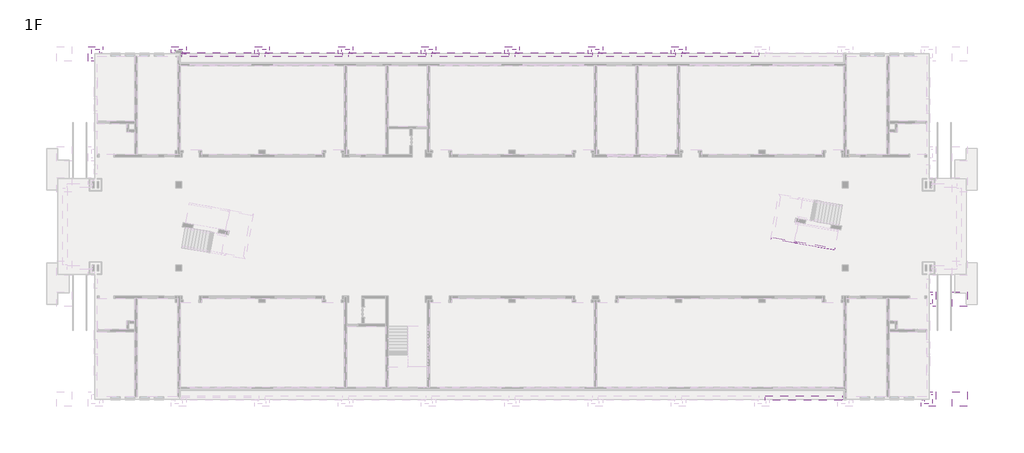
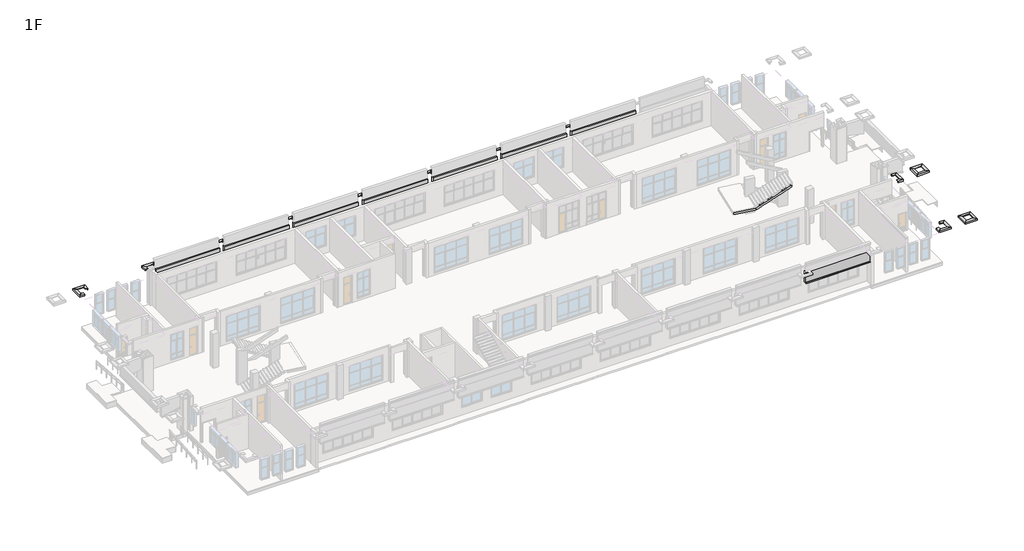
# One storey, part 15 of 16: 20 proxies, 2 members.
"""IFC4 building model written with IfcOpenShell, lengths in millimetres."""

from ifc_helpers import new_model, si_unit, origin, place, context, project, spatial, faceted_brep, transform, mapped, element, save
from components import generic_models_fbc45798, generic_models_00445dfb

model = new_model("IFC4")

# Units and contexts
model_context = context("Model", 3, world=origin())
ifc_project = project(units=[si_unit("LENGTHUNIT", "METRE", prefix="MILLI")], contexts=[model_context])

# Site, building, storey
site = spatial("IfcSite", under=ifc_project)
building = spatial("IfcBuilding", under=site)
storey = spatial("IfcBuildingStorey", under=building, Name="1F", Elevation=0.0)

# Proxies
placement = place(None, origin())
generic_models_shape = generic_models_fbc45798(model_context)
element("IfcBuildingElementProxy", 1, Name="走廊板 : h=300mm", ObjectType="走廊板 : h=300mm", at=placement, inside=storey, context=model_context, shape_type="MappedRepresentation", body=[
    mapped(generic_models_shape, transform((67300.0, 150.0, 4200.0), x_axis=(1.0, 0.0, 0.0), y_axis=(0.0, 1.0, 0.0), z_axis=(0.0, 0.0, 1.0))),
])
generic_models_2_shape = generic_models_00445dfb(model_context)
element("IfcBuildingElementProxy", 2, Name="走廊板 : h=300mm", ObjectType="走廊板 : h=300mm", at=placement, inside=storey, context=model_context, shape_type="MappedRepresentation", body=[
    mapped(generic_models_2_shape, transform((11300.0, 33050.0, 4200.0), x_axis=(1.0, 0.0, 0.0), y_axis=(0.0, 1.0, 0.0), z_axis=(0.0, 0.0, 1.0))),
])
element("IfcBuildingElementProxy", 3, Name="走廊板 : h=300mm", ObjectType="走廊板 : h=300mm", at=placement, inside=storey, context=model_context, shape_type="MappedRepresentation", body=[
    mapped(generic_models_2_shape, transform((19300.0, 33050.0, 4200.0), x_axis=(1.0, 0.0, 0.0), y_axis=(0.0, 1.0, 0.0), z_axis=(0.0, 0.0, 1.0))),
])
element("IfcBuildingElementProxy", 4, Name="走廊板 : h=300mm", ObjectType="走廊板 : h=300mm", at=placement, inside=storey, context=model_context, shape_type="MappedRepresentation", body=[
    mapped(generic_models_2_shape, transform((27300.0, 33050.0, 4200.0), x_axis=(1.0, 0.0, 0.0), y_axis=(0.0, 1.0, 0.0), z_axis=(0.0, 0.0, 1.0))),
])
element("IfcBuildingElementProxy", 5, Name="走廊板 : h=300mm", ObjectType="走廊板 : h=300mm", at=placement, inside=storey, context=model_context, shape_type="MappedRepresentation", body=[
    mapped(generic_models_2_shape, transform((35300.0, 33050.0, 4200.0), x_axis=(1.0, 0.0, 0.0), y_axis=(0.0, 1.0, 0.0), z_axis=(0.0, 0.0, 1.0))),
])
element("IfcBuildingElementProxy", 6, Name="走廊板 : h=300mm", ObjectType="走廊板 : h=300mm", at=placement, inside=storey, context=model_context, shape_type="MappedRepresentation", body=[
    mapped(generic_models_2_shape, transform((43300.0, 33050.0, 4200.0), x_axis=(1.0, 0.0, 0.0), y_axis=(0.0, 1.0, 0.0), z_axis=(0.0, 0.0, 1.0))),
])
element("IfcBuildingElementProxy", 7, Name="走廊板 : h=300mm", ObjectType="走廊板 : h=300mm", at=placement, inside=storey, context=model_context, shape_type="MappedRepresentation", body=[
    mapped(generic_models_2_shape, transform((51300.0, 33050.0, 4200.0), x_axis=(1.0, 0.0, 0.0), y_axis=(0.0, 1.0, 0.0), z_axis=(0.0, 0.0, 1.0))),
])
element("IfcBuildingElementProxy", 8, Name="走廊板 : h=300mm", ObjectType="走廊板 : h=300mm", at=placement, inside=storey, context=model_context, shape_type="MappedRepresentation", body=[
    mapped(generic_models_2_shape, transform((59300.0, 33050.0, 4200.0), x_axis=(1.0, 0.0, 0.0), y_axis=(0.0, 1.0, 0.0), z_axis=(0.0, 0.0, 1.0))),
])
element("IfcBuildingElementProxy", 9, Name="QS1", ObjectType="QS1", at=placement, inside=storey, context=model_context, shape_type="Brep", body=[
    faceted_brep([(3700.0000001, 33899.6954638, 4200.0), (3600.0000001, 33799.6954638, 4200.0), (3600.0000001, 33799.6954638, 4250.0), (3650.0000001, 33849.6954638, 4250.0), (3650.0000001, 33849.6954638, 4350.0), (3400.0000001, 33599.6954638, 4350.0), (3400.0000001, 33599.6954638, 4400.0), (3700.0000001, 33899.6954638, 4400.0), (3700.0000001, 33252.6954639, 4200.0), (3700.0000001, 33252.6954639, 4400.0), (3400.0000001, 33252.6954639, 4400.0), (3400.0000001, 33252.6954639, 4350.0), (3650.0000001, 33252.6954639, 4350.0), (3650.0000001, 33252.6954639, 4250.0), (3600.0000001, 33252.6954639, 4250.0), (3600.0000001, 33252.6954639, 4200.0)], [[[0, 1, 2, 3, 4, 5, 6, 7]], [[8, 9, 10, 11, 12, 13, 14, 15]], [[1, 0, 8, 15]], [[2, 1, 15, 14]], [[3, 2, 14, 13]], [[4, 3, 13, 12]], [[5, 4, 12, 11]], [[6, 5, 11, 10]], [[7, 6, 10, 9]], [[0, 7, 9, 8]]]),
    faceted_brep([(2300.0000001, 33899.6954638, 4200.0), (2400.0000001, 33799.6954638, 4200.0), (2400.0000001, 33799.6954638, 4250.0), (2350.0000001, 33849.6954638, 4250.0), (2350.0000001, 33849.6954638, 4350.0), (2600.0000001, 33599.6954638, 4350.0), (2600.0000001, 33599.6954638, 4400.0), (2300.0000001, 33899.6954638, 4400.0), (3700.0000001, 33899.6954638, 4200.0), (3700.0000001, 33899.6954638, 4400.0), (3400.0000001, 33599.6954638, 4400.0), (3400.0000001, 33599.6954638, 4350.0), (3650.0000001, 33849.6954638, 4350.0), (3650.0000001, 33849.6954638, 4250.0), (3600.0000001, 33799.6954638, 4250.0), (3600.0000001, 33799.6954638, 4200.0)], [[[0, 1, 2, 3, 4, 5, 6, 7]], [[8, 9, 10, 11, 12, 13, 14, 15]], [[1, 0, 8, 15]], [[2, 1, 15, 14]], [[3, 2, 14, 13]], [[4, 3, 13, 12]], [[5, 4, 12, 11]], [[6, 5, 11, 10]], [[7, 6, 10, 9]], [[0, 7, 9, 8]]]),
    faceted_brep([(2300.0000001, 32499.6954638, 4200.0), (2400.0000001, 32599.6954638, 4200.0), (2400.0000001, 32599.6954638, 4250.0), (2350.0000001, 32549.6954638, 4250.0), (2350.0000001, 32549.6954638, 4350.0), (2600.0000001, 32799.6954638, 4350.0), (2600.0000001, 32799.6954638, 4400.0), (2300.0000001, 32499.6954638, 4400.0), (2300.0000001, 33899.6954638, 4200.0), (2300.0000001, 33899.6954638, 4400.0), (2600.0000001, 33599.6954638, 4400.0), (2600.0000001, 33599.6954638, 4350.0), (2350.0000001, 33849.6954638, 4350.0), (2350.0000001, 33849.6954638, 4250.0), (2400.0000001, 33799.6954638, 4250.0), (2400.0000001, 33799.6954638, 4200.0)], [[[0, 1, 2, 3, 4, 5, 6, 7]], [[8, 9, 10, 11, 12, 13, 14, 15]], [[1, 0, 8, 15]], [[2, 1, 15, 14]], [[3, 2, 14, 13]], [[4, 3, 13, 12]], [[5, 4, 12, 11]], [[6, 5, 11, 10]], [[7, 6, 10, 9]], [[0, 7, 9, 8]]]),
    faceted_brep([(2897.0000002, 32499.6954638, 4200.0), (2897.0000002, 32599.6954638, 4200.0), (2897.0000002, 32599.6954638, 4250.0), (2897.0000002, 32549.6954638, 4250.0), (2897.0000002, 32549.6954638, 4350.0), (2897.0000002, 32799.6954638, 4350.0), (2897.0000002, 32799.6954638, 4400.0), (2897.0000002, 32499.6954638, 4400.0), (2300.0000001, 32499.6954638, 4200.0), (2300.0000001, 32499.6954638, 4400.0), (2600.0000001, 32799.6954638, 4400.0), (2600.0000001, 32799.6954638, 4350.0), (2350.0000001, 32549.6954638, 4350.0), (2350.0000001, 32549.6954638, 4250.0), (2400.0000001, 32599.6954638, 4250.0), (2400.0000001, 32599.6954638, 4200.0)], [[[0, 1, 2, 3, 4, 5, 6, 7]], [[8, 9, 10, 11, 12, 13, 14, 15]], [[1, 0, 8, 15]], [[2, 1, 15, 14]], [[3, 2, 14, 13]], [[4, 3, 13, 12]], [[5, 4, 12, 11]], [[6, 5, 11, 10]], [[7, 6, 10, 9]], [[0, 7, 9, 8]]]),
])
element("IfcBuildingElementProxy", 10, Name="QS1", ObjectType="QS1", at=placement, inside=storey, context=model_context, shape_type="Brep", body=[
    faceted_brep([(11699.9999999, 33899.6402082, 4200.0), (11599.9999999, 33799.6402082, 4200.0), (11599.9999999, 33799.6402082, 4250.0), (11649.9999999, 33849.6402082, 4250.0), (11649.9999999, 33849.6402082, 4350.0), (11399.9999999, 33599.6402082, 4350.0), (11399.9999999, 33599.6402082, 4400.0), (11699.9999999, 33899.6402082, 4400.0), (11699.9999999, 33159.6402082, 4200.0), (11699.9999999, 33159.6402082, 4400.0), (11399.9999999, 33159.6402082, 4400.0), (11399.9999999, 33159.6402082, 4350.0), (11649.9999999, 33159.6402082, 4350.0), (11649.9999999, 33159.6402082, 4250.0), (11599.9999999, 33159.6402082, 4250.0), (11599.9999999, 33159.6402082, 4200.0)], [[[0, 1, 2, 3, 4, 5, 6, 7]], [[8, 9, 10, 11, 12, 13, 14, 15]], [[1, 0, 8, 15]], [[2, 1, 15, 14]], [[3, 2, 14, 13]], [[4, 3, 13, 12]], [[5, 4, 12, 11]], [[6, 5, 11, 10]], [[7, 6, 10, 9]], [[0, 7, 9, 8]]]),
    faceted_brep([(10300.0000009, 33899.6402082, 4200.0), (10400.0000009, 33799.6402082, 4200.0), (10400.0000009, 33799.6402082, 4250.0), (10350.0000009, 33849.6402082, 4250.0), (10350.0000009, 33849.6402082, 4350.0), (10600.0000009, 33599.6402082, 4350.0), (10600.0000009, 33599.6402082, 4400.0), (10300.0000009, 33899.6402082, 4400.0), (11699.9999999, 33899.6402082, 4200.0), (11699.9999999, 33899.6402082, 4400.0), (11399.9999999, 33599.6402082, 4400.0), (11399.9999999, 33599.6402082, 4350.0), (11649.9999999, 33849.6402082, 4350.0), (11649.9999999, 33849.6402082, 4250.0), (11599.9999999, 33799.6402082, 4250.0), (11599.9999999, 33799.6402082, 4200.0)], [[[0, 1, 2, 3, 4, 5, 6, 7]], [[8, 9, 10, 11, 12, 13, 14, 15]], [[1, 0, 8, 15]], [[2, 1, 15, 14]], [[3, 2, 14, 13]], [[4, 3, 13, 12]], [[5, 4, 12, 11]], [[6, 5, 11, 10]], [[7, 6, 10, 9]], [[0, 7, 9, 8]]]),
    faceted_brep([(10300.0000009, 33252.6954639, 4200.0), (10400.0000009, 33252.6954639, 4200.0), (10400.0000009, 33252.6954639, 4250.0), (10350.0000009, 33252.6954639, 4250.0), (10350.0000009, 33252.6954639, 4350.0), (10600.0000009, 33252.6954639, 4350.0), (10600.0000009, 33252.6954639, 4400.0), (10300.0000009, 33252.6954639, 4400.0), (10300.0000009, 33899.6402082, 4200.0), (10300.0000009, 33899.6402082, 4400.0), (10600.0000009, 33599.6402082, 4400.0), (10600.0000009, 33599.6402082, 4350.0), (10350.0000009, 33849.6402082, 4350.0), (10350.0000009, 33849.6402082, 4250.0), (10400.0000009, 33799.6402082, 4250.0), (10400.0000009, 33799.6402082, 4200.0)], [[[0, 1, 2, 3, 4, 5, 6, 7]], [[8, 9, 10, 11, 12, 13, 14, 15]], [[1, 0, 8, 15]], [[2, 1, 15, 14]], [[3, 2, 14, 13]], [[4, 3, 13, 12]], [[5, 4, 12, 11]], [[6, 5, 11, 10]], [[7, 6, 10, 9]], [[0, 7, 9, 8]]]),
])
element("IfcBuildingElementProxy", 11, Name="QS1", ObjectType="QS1", at=placement, inside=storey, context=model_context, shape_type="Brep", body=[
    faceted_brep([(18300.0000009, 33200.0, 4200.0), (18400.0000009, 33200.0, 4200.0), (18400.0000009, 33200.0, 4250.0), (18350.0000009, 33200.0, 4250.0), (18350.0000009, 33200.0, 4350.0), (18600.0000009, 33200.0, 4350.0), (18600.0000009, 33200.0, 4400.0), (18300.0000009, 33200.0, 4400.0), (18300.0000009, 33899.6402082, 4200.0), (18300.0000009, 33899.6402082, 4400.0), (18600.0000009, 33599.6402082, 4400.0), (18600.0000009, 33599.6402082, 4350.0), (18350.0000009, 33849.6402082, 4350.0), (18350.0000009, 33849.6402082, 4250.0), (18400.0000009, 33799.6402082, 4250.0), (18400.0000009, 33799.6402082, 4200.0)], [[[0, 1, 2, 3, 4, 5, 6, 7]], [[8, 9, 10, 11, 12, 13, 14, 15]], [[1, 0, 8, 15]], [[2, 1, 15, 14]], [[3, 2, 14, 13]], [[4, 3, 13, 12]], [[5, 4, 12, 11]], [[6, 5, 11, 10]], [[7, 6, 10, 9]], [[0, 7, 9, 8]]]),
    faceted_brep([(18300.0000009, 33899.6402082, 4200.0), (18400.0000009, 33799.6402082, 4200.0), (18400.0000009, 33799.6402082, 4250.0), (18350.0000009, 33849.6402082, 4250.0), (18350.0000009, 33849.6402082, 4350.0), (18600.0000009, 33599.6402082, 4350.0), (18600.0000009, 33599.6402082, 4400.0), (18300.0000009, 33899.6402082, 4400.0), (19699.9999999, 33899.6402082, 4200.0), (19699.9999999, 33899.6402082, 4400.0), (19399.9999999, 33599.6402082, 4400.0), (19399.9999999, 33599.6402082, 4350.0), (19649.9999999, 33849.6402082, 4350.0), (19649.9999999, 33849.6402082, 4250.0), (19599.9999999, 33799.6402082, 4250.0), (19599.9999999, 33799.6402082, 4200.0)], [[[0, 1, 2, 3, 4, 5, 6, 7]], [[8, 9, 10, 11, 12, 13, 14, 15]], [[1, 0, 8, 15]], [[2, 1, 15, 14]], [[3, 2, 14, 13]], [[4, 3, 13, 12]], [[5, 4, 12, 11]], [[6, 5, 11, 10]], [[7, 6, 10, 9]], [[0, 7, 9, 8]]]),
    faceted_brep([(19699.9999999, 33899.6402082, 4200.0), (19599.9999999, 33799.6402082, 4200.0), (19599.9999999, 33799.6402082, 4250.0), (19649.9999999, 33849.6402082, 4250.0), (19649.9999999, 33849.6402082, 4350.0), (19399.9999999, 33599.6402082, 4350.0), (19399.9999999, 33599.6402082, 4400.0), (19699.9999999, 33899.6402082, 4400.0), (19699.9999999, 33199.844957, 4200.0), (19699.9999999, 33199.844957, 4400.0), (19399.9999999, 33199.844957, 4400.0), (19399.9999999, 33199.844957, 4350.0), (19649.9999999, 33199.844957, 4350.0), (19649.9999999, 33199.844957, 4250.0), (19599.9999999, 33199.844957, 4250.0), (19599.9999999, 33199.844957, 4200.0)], [[[0, 1, 2, 3, 4, 5, 6, 7]], [[8, 9, 10, 11, 12, 13, 14, 15]], [[1, 0, 8, 15]], [[2, 1, 15, 14]], [[3, 2, 14, 13]], [[4, 3, 13, 12]], [[5, 4, 12, 11]], [[6, 5, 11, 10]], [[7, 6, 10, 9]], [[0, 7, 9, 8]]]),
])
element("IfcBuildingElementProxy", 12, Name="QS1", ObjectType="QS1", at=placement, inside=storey, context=model_context, shape_type="Brep", body=[
    faceted_brep([(26300.0000009, 33200.0, 4200.0), (26400.0000009, 33200.0, 4200.0), (26400.0000009, 33200.0, 4250.0), (26350.0000009, 33200.0, 4250.0), (26350.0000009, 33200.0, 4350.0), (26600.0000009, 33200.0, 4350.0), (26600.0000009, 33200.0, 4400.0), (26300.0000009, 33200.0, 4400.0), (26300.0000009, 33899.6402082, 4200.0), (26300.0000009, 33899.6402082, 4400.0), (26600.0000009, 33599.6402082, 4400.0), (26600.0000009, 33599.6402082, 4350.0), (26350.0000009, 33849.6402082, 4350.0), (26350.0000009, 33849.6402082, 4250.0), (26400.0000009, 33799.6402082, 4250.0), (26400.0000009, 33799.6402082, 4200.0)], [[[0, 1, 2, 3, 4, 5, 6, 7]], [[8, 9, 10, 11, 12, 13, 14, 15]], [[1, 0, 8, 15]], [[2, 1, 15, 14]], [[3, 2, 14, 13]], [[4, 3, 13, 12]], [[5, 4, 12, 11]], [[6, 5, 11, 10]], [[7, 6, 10, 9]], [[0, 7, 9, 8]]]),
    faceted_brep([(26300.0000009, 33899.6402082, 4200.0), (26400.0000009, 33799.6402082, 4200.0), (26400.0000009, 33799.6402082, 4250.0), (26350.0000009, 33849.6402082, 4250.0), (26350.0000009, 33849.6402082, 4350.0), (26600.0000009, 33599.6402082, 4350.0), (26600.0000009, 33599.6402082, 4400.0), (26300.0000009, 33899.6402082, 4400.0), (27699.9999999, 33899.6402082, 4200.0), (27699.9999999, 33899.6402082, 4400.0), (27399.9999999, 33599.6402082, 4400.0), (27399.9999999, 33599.6402082, 4350.0), (27649.9999999, 33849.6402082, 4350.0), (27649.9999999, 33849.6402082, 4250.0), (27599.9999999, 33799.6402082, 4250.0), (27599.9999999, 33799.6402082, 4200.0)], [[[0, 1, 2, 3, 4, 5, 6, 7]], [[8, 9, 10, 11, 12, 13, 14, 15]], [[1, 0, 8, 15]], [[2, 1, 15, 14]], [[3, 2, 14, 13]], [[4, 3, 13, 12]], [[5, 4, 12, 11]], [[6, 5, 11, 10]], [[7, 6, 10, 9]], [[0, 7, 9, 8]]]),
    faceted_brep([(27699.9999999, 33899.6402082, 4200.0), (27599.9999999, 33799.6402082, 4200.0), (27599.9999999, 33799.6402082, 4250.0), (27649.9999999, 33849.6402082, 4250.0), (27649.9999999, 33849.6402082, 4350.0), (27399.9999999, 33599.6402082, 4350.0), (27399.9999999, 33599.6402082, 4400.0), (27699.9999999, 33899.6402082, 4400.0), (27699.9999999, 33199.844957, 4200.0), (27699.9999999, 33199.844957, 4400.0), (27399.9999999, 33199.844957, 4400.0), (27399.9999999, 33199.844957, 4350.0), (27649.9999999, 33199.844957, 4350.0), (27649.9999999, 33199.844957, 4250.0), (27599.9999999, 33199.844957, 4250.0), (27599.9999999, 33199.844957, 4200.0)], [[[0, 1, 2, 3, 4, 5, 6, 7]], [[8, 9, 10, 11, 12, 13, 14, 15]], [[1, 0, 8, 15]], [[2, 1, 15, 14]], [[3, 2, 14, 13]], [[4, 3, 13, 12]], [[5, 4, 12, 11]], [[6, 5, 11, 10]], [[7, 6, 10, 9]], [[0, 7, 9, 8]]]),
])
element("IfcBuildingElementProxy", 13, Name="QS1", ObjectType="QS1", at=placement, inside=storey, context=model_context, shape_type="Brep", body=[
    faceted_brep([(34300.0000009, 33200.0, 4200.0), (34400.0000009, 33200.0, 4200.0), (34400.0000009, 33200.0, 4250.0), (34350.0000009, 33200.0, 4250.0), (34350.0000009, 33200.0, 4350.0), (34600.0000009, 33200.0, 4350.0), (34600.0000009, 33200.0, 4400.0), (34300.0000009, 33200.0, 4400.0), (34300.0000009, 33899.6402082, 4200.0), (34300.0000009, 33899.6402082, 4400.0), (34600.0000009, 33599.6402082, 4400.0), (34600.0000009, 33599.6402082, 4350.0), (34350.0000009, 33849.6402082, 4350.0), (34350.0000009, 33849.6402082, 4250.0), (34400.0000009, 33799.6402082, 4250.0), (34400.0000009, 33799.6402082, 4200.0)], [[[0, 1, 2, 3, 4, 5, 6, 7]], [[8, 9, 10, 11, 12, 13, 14, 15]], [[1, 0, 8, 15]], [[2, 1, 15, 14]], [[3, 2, 14, 13]], [[4, 3, 13, 12]], [[5, 4, 12, 11]], [[6, 5, 11, 10]], [[7, 6, 10, 9]], [[0, 7, 9, 8]]]),
    faceted_brep([(34300.0000009, 33899.6402082, 4200.0), (34400.0000009, 33799.6402082, 4200.0), (34400.0000009, 33799.6402082, 4250.0), (34350.0000009, 33849.6402082, 4250.0), (34350.0000009, 33849.6402082, 4350.0), (34600.0000009, 33599.6402082, 4350.0), (34600.0000009, 33599.6402082, 4400.0), (34300.0000009, 33899.6402082, 4400.0), (35699.9999999, 33899.6402082, 4200.0), (35699.9999999, 33899.6402082, 4400.0), (35399.9999999, 33599.6402082, 4400.0), (35399.9999999, 33599.6402082, 4350.0), (35649.9999999, 33849.6402082, 4350.0), (35649.9999999, 33849.6402082, 4250.0), (35599.9999999, 33799.6402082, 4250.0), (35599.9999999, 33799.6402082, 4200.0)], [[[0, 1, 2, 3, 4, 5, 6, 7]], [[8, 9, 10, 11, 12, 13, 14, 15]], [[1, 0, 8, 15]], [[2, 1, 15, 14]], [[3, 2, 14, 13]], [[4, 3, 13, 12]], [[5, 4, 12, 11]], [[6, 5, 11, 10]], [[7, 6, 10, 9]], [[0, 7, 9, 8]]]),
    faceted_brep([(35699.9999999, 33899.6402082, 4200.0), (35599.9999999, 33799.6402082, 4200.0), (35599.9999999, 33799.6402082, 4250.0), (35649.9999999, 33849.6402082, 4250.0), (35649.9999999, 33849.6402082, 4350.0), (35399.9999999, 33599.6402082, 4350.0), (35399.9999999, 33599.6402082, 4400.0), (35699.9999999, 33899.6402082, 4400.0), (35699.9999999, 33199.844957, 4200.0), (35699.9999999, 33199.844957, 4400.0), (35399.9999999, 33199.844957, 4400.0), (35399.9999999, 33199.844957, 4350.0), (35649.9999999, 33199.844957, 4350.0), (35649.9999999, 33199.844957, 4250.0), (35599.9999999, 33199.844957, 4250.0), (35599.9999999, 33199.844957, 4200.0)], [[[0, 1, 2, 3, 4, 5, 6, 7]], [[8, 9, 10, 11, 12, 13, 14, 15]], [[1, 0, 8, 15]], [[2, 1, 15, 14]], [[3, 2, 14, 13]], [[4, 3, 13, 12]], [[5, 4, 12, 11]], [[6, 5, 11, 10]], [[7, 6, 10, 9]], [[0, 7, 9, 8]]]),
])
element("IfcBuildingElementProxy", 14, Name="QS1", ObjectType="QS1", at=placement, inside=storey, context=model_context, shape_type="Brep", body=[
    faceted_brep([(42300.0000009, 33200.0, 4200.0), (42400.0000009, 33200.0, 4200.0), (42400.0000009, 33200.0, 4250.0), (42350.0000009, 33200.0, 4250.0), (42350.0000009, 33200.0, 4350.0), (42600.0000009, 33200.0, 4350.0), (42600.0000009, 33200.0, 4400.0), (42300.0000009, 33200.0, 4400.0), (42300.0000009, 33899.6402082, 4200.0), (42300.0000009, 33899.6402082, 4400.0), (42600.0000009, 33599.6402082, 4400.0), (42600.0000009, 33599.6402082, 4350.0), (42350.0000009, 33849.6402082, 4350.0), (42350.0000009, 33849.6402082, 4250.0), (42400.0000009, 33799.6402082, 4250.0), (42400.0000009, 33799.6402082, 4200.0)], [[[0, 1, 2, 3, 4, 5, 6, 7]], [[8, 9, 10, 11, 12, 13, 14, 15]], [[1, 0, 8, 15]], [[2, 1, 15, 14]], [[3, 2, 14, 13]], [[4, 3, 13, 12]], [[5, 4, 12, 11]], [[6, 5, 11, 10]], [[7, 6, 10, 9]], [[0, 7, 9, 8]]]),
    faceted_brep([(42300.0000009, 33899.6402082, 4200.0), (42400.0000009, 33799.6402082, 4200.0), (42400.0000009, 33799.6402082, 4250.0), (42350.0000009, 33849.6402082, 4250.0), (42350.0000009, 33849.6402082, 4350.0), (42600.0000009, 33599.6402082, 4350.0), (42600.0000009, 33599.6402082, 4400.0), (42300.0000009, 33899.6402082, 4400.0), (43699.9999999, 33899.6402082, 4200.0), (43699.9999999, 33899.6402082, 4400.0), (43399.9999999, 33599.6402082, 4400.0), (43399.9999999, 33599.6402082, 4350.0), (43649.9999999, 33849.6402082, 4350.0), (43649.9999999, 33849.6402082, 4250.0), (43599.9999999, 33799.6402082, 4250.0), (43599.9999999, 33799.6402082, 4200.0)], [[[0, 1, 2, 3, 4, 5, 6, 7]], [[8, 9, 10, 11, 12, 13, 14, 15]], [[1, 0, 8, 15]], [[2, 1, 15, 14]], [[3, 2, 14, 13]], [[4, 3, 13, 12]], [[5, 4, 12, 11]], [[6, 5, 11, 10]], [[7, 6, 10, 9]], [[0, 7, 9, 8]]]),
    faceted_brep([(43699.9999999, 33899.6402082, 4200.0), (43599.9999999, 33799.6402082, 4200.0), (43599.9999999, 33799.6402082, 4250.0), (43649.9999999, 33849.6402082, 4250.0), (43649.9999999, 33849.6402082, 4350.0), (43399.9999999, 33599.6402082, 4350.0), (43399.9999999, 33599.6402082, 4400.0), (43699.9999999, 33899.6402082, 4400.0), (43699.9999999, 33199.844957, 4200.0), (43699.9999999, 33199.844957, 4400.0), (43399.9999999, 33199.844957, 4400.0), (43399.9999999, 33199.844957, 4350.0), (43649.9999999, 33199.844957, 4350.0), (43649.9999999, 33199.844957, 4250.0), (43599.9999999, 33199.844957, 4250.0), (43599.9999999, 33199.844957, 4200.0)], [[[0, 1, 2, 3, 4, 5, 6, 7]], [[8, 9, 10, 11, 12, 13, 14, 15]], [[1, 0, 8, 15]], [[2, 1, 15, 14]], [[3, 2, 14, 13]], [[4, 3, 13, 12]], [[5, 4, 12, 11]], [[6, 5, 11, 10]], [[7, 6, 10, 9]], [[0, 7, 9, 8]]]),
])
element("IfcBuildingElementProxy", 15, Name="QS1", ObjectType="QS1", at=placement, inside=storey, context=model_context, shape_type="Brep", body=[
    faceted_brep([(50300.0000009, 33200.0, 4200.0), (50400.0000009, 33200.0, 4200.0), (50400.0000009, 33200.0, 4250.0), (50350.0000009, 33200.0, 4250.0), (50350.0000009, 33200.0, 4350.0), (50600.0000009, 33200.0, 4350.0), (50600.0000009, 33200.0, 4400.0), (50300.0000009, 33200.0, 4400.0), (50300.0000009, 33899.6402082, 4200.0), (50300.0000009, 33899.6402082, 4400.0), (50600.0000009, 33599.6402082, 4400.0), (50600.0000009, 33599.6402082, 4350.0), (50350.0000009, 33849.6402082, 4350.0), (50350.0000009, 33849.6402082, 4250.0), (50400.0000009, 33799.6402082, 4250.0), (50400.0000009, 33799.6402082, 4200.0)], [[[0, 1, 2, 3, 4, 5, 6, 7]], [[8, 9, 10, 11, 12, 13, 14, 15]], [[1, 0, 8, 15]], [[2, 1, 15, 14]], [[3, 2, 14, 13]], [[4, 3, 13, 12]], [[5, 4, 12, 11]], [[6, 5, 11, 10]], [[7, 6, 10, 9]], [[0, 7, 9, 8]]]),
    faceted_brep([(50300.0000009, 33899.6402082, 4200.0), (50400.0000009, 33799.6402082, 4200.0), (50400.0000009, 33799.6402082, 4250.0), (50350.0000009, 33849.6402082, 4250.0), (50350.0000009, 33849.6402082, 4350.0), (50600.0000009, 33599.6402082, 4350.0), (50600.0000009, 33599.6402082, 4400.0), (50300.0000009, 33899.6402082, 4400.0), (51699.9999999, 33899.6402082, 4200.0), (51699.9999999, 33899.6402082, 4400.0), (51399.9999999, 33599.6402082, 4400.0), (51399.9999999, 33599.6402082, 4350.0), (51649.9999999, 33849.6402082, 4350.0), (51649.9999999, 33849.6402082, 4250.0), (51599.9999999, 33799.6402082, 4250.0), (51599.9999999, 33799.6402082, 4200.0)], [[[0, 1, 2, 3, 4, 5, 6, 7]], [[8, 9, 10, 11, 12, 13, 14, 15]], [[1, 0, 8, 15]], [[2, 1, 15, 14]], [[3, 2, 14, 13]], [[4, 3, 13, 12]], [[5, 4, 12, 11]], [[6, 5, 11, 10]], [[7, 6, 10, 9]], [[0, 7, 9, 8]]]),
    faceted_brep([(51699.9999999, 33899.6402082, 4200.0), (51599.9999999, 33799.6402082, 4200.0), (51599.9999999, 33799.6402082, 4250.0), (51649.9999999, 33849.6402082, 4250.0), (51649.9999999, 33849.6402082, 4350.0), (51399.9999999, 33599.6402082, 4350.0), (51399.9999999, 33599.6402082, 4400.0), (51699.9999999, 33899.6402082, 4400.0), (51699.9999999, 33199.844957, 4200.0), (51699.9999999, 33199.844957, 4400.0), (51399.9999999, 33199.844957, 4400.0), (51399.9999999, 33199.844957, 4350.0), (51649.9999999, 33199.844957, 4350.0), (51649.9999999, 33199.844957, 4250.0), (51599.9999999, 33199.844957, 4250.0), (51599.9999999, 33199.844957, 4200.0)], [[[0, 1, 2, 3, 4, 5, 6, 7]], [[8, 9, 10, 11, 12, 13, 14, 15]], [[1, 0, 8, 15]], [[2, 1, 15, 14]], [[3, 2, 14, 13]], [[4, 3, 13, 12]], [[5, 4, 12, 11]], [[6, 5, 11, 10]], [[7, 6, 10, 9]], [[0, 7, 9, 8]]]),
])
element("IfcBuildingElementProxy", 16, Name="QS1", ObjectType="QS1", at=placement, inside=storey, context=model_context, shape_type="Brep", body=[
    faceted_brep([(58300.0000009, 33200.0, 4200.0), (58400.0000009, 33200.0, 4200.0), (58400.0000009, 33200.0, 4250.0), (58350.0000009, 33200.0, 4250.0), (58350.0000009, 33200.0, 4350.0), (58600.0000009, 33200.0, 4350.0), (58600.0000009, 33200.0, 4400.0), (58300.0000009, 33200.0, 4400.0), (58300.0000009, 33899.6402082, 4200.0), (58300.0000009, 33899.6402082, 4400.0), (58600.0000009, 33599.6402082, 4400.0), (58600.0000009, 33599.6402082, 4350.0), (58350.0000009, 33849.6402082, 4350.0), (58350.0000009, 33849.6402082, 4250.0), (58400.0000009, 33799.6402082, 4250.0), (58400.0000009, 33799.6402082, 4200.0)], [[[0, 1, 2, 3, 4, 5, 6, 7]], [[8, 9, 10, 11, 12, 13, 14, 15]], [[1, 0, 8, 15]], [[2, 1, 15, 14]], [[3, 2, 14, 13]], [[4, 3, 13, 12]], [[5, 4, 12, 11]], [[6, 5, 11, 10]], [[7, 6, 10, 9]], [[0, 7, 9, 8]]]),
    faceted_brep([(58300.0000009, 33899.6402082, 4200.0), (58400.0000009, 33799.6402082, 4200.0), (58400.0000009, 33799.6402082, 4250.0), (58350.0000009, 33849.6402082, 4250.0), (58350.0000009, 33849.6402082, 4350.0), (58600.0000009, 33599.6402082, 4350.0), (58600.0000009, 33599.6402082, 4400.0), (58300.0000009, 33899.6402082, 4400.0), (59699.9999999, 33899.6402082, 4200.0), (59699.9999999, 33899.6402082, 4400.0), (59399.9999999, 33599.6402082, 4400.0), (59399.9999999, 33599.6402082, 4350.0), (59649.9999999, 33849.6402082, 4350.0), (59649.9999999, 33849.6402082, 4250.0), (59599.9999999, 33799.6402082, 4250.0), (59599.9999999, 33799.6402082, 4200.0)], [[[0, 1, 2, 3, 4, 5, 6, 7]], [[8, 9, 10, 11, 12, 13, 14, 15]], [[1, 0, 8, 15]], [[2, 1, 15, 14]], [[3, 2, 14, 13]], [[4, 3, 13, 12]], [[5, 4, 12, 11]], [[6, 5, 11, 10]], [[7, 6, 10, 9]], [[0, 7, 9, 8]]]),
    faceted_brep([(59699.9999999, 33899.6402082, 4200.0), (59599.9999999, 33799.6402082, 4200.0), (59599.9999999, 33799.6402082, 4250.0), (59649.9999999, 33849.6402082, 4250.0), (59649.9999999, 33849.6402082, 4350.0), (59399.9999999, 33599.6402082, 4350.0), (59399.9999999, 33599.6402082, 4400.0), (59699.9999999, 33899.6402082, 4400.0), (59699.9999999, 33199.844957, 4200.0), (59699.9999999, 33199.844957, 4400.0), (59399.9999999, 33199.844957, 4400.0), (59399.9999999, 33199.844957, 4350.0), (59649.9999999, 33199.844957, 4350.0), (59649.9999999, 33199.844957, 4250.0), (59599.9999999, 33199.844957, 4250.0), (59599.9999999, 33199.844957, 4200.0)], [[[0, 1, 2, 3, 4, 5, 6, 7]], [[8, 9, 10, 11, 12, 13, 14, 15]], [[1, 0, 8, 15]], [[2, 1, 15, 14]], [[3, 2, 14, 13]], [[4, 3, 13, 12]], [[5, 4, 12, 11]], [[6, 5, 11, 10]], [[7, 6, 10, 9]], [[0, 7, 9, 8]]]),
])
element("IfcBuildingElementProxy", 17, Name="QS1", ObjectType="QS1", at=placement, inside=storey, context=model_context, shape_type="Brep", body=[
    faceted_brep([(85300.0, 700.6038426, 4200.0), (85400.0, 600.6038426, 4200.0), (85400.0, 600.6038426, 4250.0), (85350.0, 650.6038426, 4250.0), (85350.0, 650.6038426, 4350.0), (85600.0, 400.6038426, 4350.0), (85600.0, 400.6038426, 4400.0), (85300.0, 700.6038426, 4400.0), (86700.0000001, 700.6038426, 4200.0), (86700.0000001, 700.6038426, 4400.0), (86400.0000001, 400.6038426, 4400.0), (86400.0000001, 400.6038426, 4350.0), (86650.0000001, 650.6038426, 4350.0), (86650.0000001, 650.6038426, 4250.0), (86600.0000001, 600.6038426, 4250.0), (86600.0000001, 600.6038426, 4200.0)], [[[0, 1, 2, 3, 4, 5, 6, 7]], [[8, 9, 10, 11, 12, 13, 14, 15]], [[1, 0, 8, 15]], [[2, 1, 15, 14]], [[3, 2, 14, 13]], [[4, 3, 13, 12]], [[5, 4, 12, 11]], [[6, 5, 11, 10]], [[7, 6, 10, 9]], [[0, 7, 9, 8]]]),
    faceted_brep([(86700.0000001, 700.6038426, 4200.0), (86600.0000001, 600.6038426, 4200.0), (86600.0000001, 600.6038426, 4250.0), (86650.0000001, 650.6038426, 4250.0), (86650.0000001, 650.6038426, 4350.0), (86400.0000001, 400.6038426, 4350.0), (86400.0000001, 400.6038426, 4400.0), (86700.0000001, 700.6038426, 4400.0), (86700.0000001, -699.3961574, 4200.0), (86700.0000001, -699.3961574, 4400.0), (86400.0000001, -399.3961574, 4400.0), (86400.0000001, -399.3961574, 4350.0), (86650.0000001, -649.3961574, 4350.0), (86650.0000001, -649.3961574, 4250.0), (86600.0000001, -599.3961574, 4250.0), (86600.0000001, -599.3961574, 4200.0)], [[[0, 1, 2, 3, 4, 5, 6, 7]], [[8, 9, 10, 11, 12, 13, 14, 15]], [[1, 0, 8, 15]], [[2, 1, 15, 14]], [[3, 2, 14, 13]], [[4, 3, 13, 12]], [[5, 4, 12, 11]], [[6, 5, 11, 10]], [[7, 6, 10, 9]], [[0, 7, 9, 8]]]),
    faceted_brep([(86700.0000001, -699.3961574, 4200.0), (86600.0000001, -599.3961574, 4200.0), (86600.0000001, -599.3961574, 4250.0), (86650.0000001, -649.3961574, 4250.0), (86650.0000001, -649.3961574, 4350.0), (86400.0000001, -399.3961574, 4350.0), (86400.0000001, -399.3961574, 4400.0), (86700.0000001, -699.3961574, 4400.0), (85300.0, -699.3961574, 4200.0), (85300.0, -699.3961574, 4400.0), (85600.0, -399.3961574, 4400.0), (85600.0, -399.3961574, 4350.0), (85350.0, -649.3961574, 4350.0), (85350.0, -649.3961574, 4250.0), (85400.0, -599.3961574, 4250.0), (85400.0, -599.3961574, 4200.0)], [[[0, 1, 2, 3, 4, 5, 6, 7]], [[8, 9, 10, 11, 12, 13, 14, 15]], [[1, 0, 8, 15]], [[2, 1, 15, 14]], [[3, 2, 14, 13]], [[4, 3, 13, 12]], [[5, 4, 12, 11]], [[6, 5, 11, 10]], [[7, 6, 10, 9]], [[0, 7, 9, 8]]]),
    faceted_brep([(85300.0, -699.3961574, 4200.0), (85400.0, -599.3961574, 4200.0), (85400.0, -599.3961574, 4250.0), (85350.0, -649.3961574, 4250.0), (85350.0, -649.3961574, 4350.0), (85600.0, -399.3961574, 4350.0), (85600.0, -399.3961574, 4400.0), (85300.0, -699.3961574, 4400.0), (85300.0, 700.6038426, 4200.0), (85300.0, 700.6038426, 4400.0), (85600.0, 400.6038426, 4400.0), (85600.0, 400.6038426, 4350.0), (85350.0, 650.6038426, 4350.0), (85350.0, 650.6038426, 4250.0), (85400.0, 600.6038426, 4250.0), (85400.0, 600.6038426, 4200.0)], [[[0, 1, 2, 3, 4, 5, 6, 7]], [[8, 9, 10, 11, 12, 13, 14, 15]], [[1, 0, 8, 15]], [[2, 1, 15, 14]], [[3, 2, 14, 13]], [[4, 3, 13, 12]], [[5, 4, 12, 11]], [[6, 5, 11, 10]], [[7, 6, 10, 9]], [[0, 7, 9, 8]]]),
])
element("IfcBuildingElementProxy", 18, Name="QS1", ObjectType="QS1", at=placement, inside=storey, context=model_context, shape_type="Brep", body=[
    faceted_brep([(86700.0000001, 10300.6038426, 4200.0), (86600.0000001, 10200.6038426, 4200.0), (86600.0000001, 10200.6038426, 4250.0), (86650.0000001, 10250.6038426, 4250.0), (86650.0000001, 10250.6038426, 4350.0), (86400.0000001, 10000.6038426, 4350.0), (86400.0000001, 10000.6038426, 4400.0), (86700.0000001, 10300.6038426, 4400.0), (86700.0000001, 8900.6038426, 4200.0), (86700.0000001, 8900.6038426, 4400.0), (86400.0000001, 9200.6038426, 4400.0), (86400.0000001, 9200.6038426, 4350.0), (86650.0000001, 8950.6038426, 4350.0), (86650.0000001, 8950.6038426, 4250.0), (86600.0000001, 9000.6038426, 4250.0), (86600.0000001, 9000.6038426, 4200.0)], [[[0, 1, 2, 3, 4, 5, 6, 7]], [[8, 9, 10, 11, 12, 13, 14, 15]], [[1, 0, 8, 15]], [[2, 1, 15, 14]], [[3, 2, 14, 13]], [[4, 3, 13, 12]], [[5, 4, 12, 11]], [[6, 5, 11, 10]], [[7, 6, 10, 9]], [[0, 7, 9, 8]]]),
    faceted_brep([(86700.0000001, 8900.6038426, 4200.0), (86600.0000001, 9000.6038426, 4200.0), (86600.0000001, 9000.6038426, 4250.0), (86650.0000001, 8950.6038426, 4250.0), (86650.0000001, 8950.6038426, 4350.0), (86400.0000001, 9200.6038426, 4350.0), (86400.0000001, 9200.6038426, 4400.0), (86700.0000001, 8900.6038426, 4400.0), (85300.0, 8900.6038426, 4200.0), (85300.0, 8900.6038426, 4400.0), (85600.0, 9200.6038426, 4400.0), (85600.0, 9200.6038426, 4350.0), (85350.0, 8950.6038426, 4350.0), (85350.0, 8950.6038426, 4250.0), (85400.0, 9000.6038426, 4250.0), (85400.0, 9000.6038426, 4200.0)], [[[0, 1, 2, 3, 4, 5, 6, 7]], [[8, 9, 10, 11, 12, 13, 14, 15]], [[1, 0, 8, 15]], [[2, 1, 15, 14]], [[3, 2, 14, 13]], [[4, 3, 13, 12]], [[5, 4, 12, 11]], [[6, 5, 11, 10]], [[7, 6, 10, 9]], [[0, 7, 9, 8]]]),
    faceted_brep([(85300.0, 10300.6038426, 4200.0), (85400.0, 10200.6038426, 4200.0), (85400.0, 10200.6038426, 4250.0), (85350.0, 10250.6038426, 4250.0), (85350.0, 10250.6038426, 4350.0), (85600.0, 10000.6038426, 4350.0), (85600.0, 10000.6038426, 4400.0), (85300.0, 10300.6038426, 4400.0), (86700.0000001, 10300.6038426, 4200.0), (86700.0000001, 10300.6038426, 4400.0), (86400.0000001, 10000.6038426, 4400.0), (86400.0000001, 10000.6038426, 4350.0), (86650.0000001, 10250.6038426, 4350.0), (86650.0000001, 10250.6038426, 4250.0), (86600.0000001, 10200.6038426, 4250.0), (86600.0000001, 10200.6038426, 4200.0)], [[[0, 1, 2, 3, 4, 5, 6, 7]], [[8, 9, 10, 11, 12, 13, 14, 15]], [[1, 0, 8, 15]], [[2, 1, 15, 14]], [[3, 2, 14, 13]], [[4, 3, 13, 12]], [[5, 4, 12, 11]], [[6, 5, 11, 10]], [[7, 6, 10, 9]], [[0, 7, 9, 8]]]),
    faceted_brep([(85300.0, 8900.6038426, 4200.0), (85400.0, 9000.6038426, 4200.0), (85400.0, 9000.6038426, 4250.0), (85350.0, 8950.6038426, 4250.0), (85350.0, 8950.6038426, 4350.0), (85600.0, 9200.6038426, 4350.0), (85600.0, 9200.6038426, 4400.0), (85300.0, 8900.6038426, 4400.0), (85300.0, 10300.6038426, 4200.0), (85300.0, 10300.6038426, 4400.0), (85600.0, 10000.6038426, 4400.0), (85600.0, 10000.6038426, 4350.0), (85350.0, 10250.6038426, 4350.0), (85350.0, 10250.6038426, 4250.0), (85400.0, 10200.6038426, 4250.0), (85400.0, 10200.6038426, 4200.0)], [[[0, 1, 2, 3, 4, 5, 6, 7]], [[8, 9, 10, 11, 12, 13, 14, 15]], [[1, 0, 8, 15]], [[2, 1, 15, 14]], [[3, 2, 14, 13]], [[4, 3, 13, 12]], [[5, 4, 12, 11]], [[6, 5, 11, 10]], [[7, 6, 10, 9]], [[0, 7, 9, 8]]]),
])
element("IfcBuildingElementProxy", 19, Name="QS1", ObjectType="QS1", at=placement, inside=storey, context=model_context, shape_type="Brep", body=[
    faceted_brep([(82299.9999999, -699.6954638, 4200.0), (82399.9999999, -599.6954638, 4200.0), (82399.9999999, -599.6954638, 4250.0), (82349.9999999, -649.6954638, 4250.0), (82349.9999999, -649.6954638, 4350.0), (82599.9999999, -399.6954638, 4350.0), (82599.9999999, -399.6954638, 4400.0), (82299.9999999, -699.6954638, 4400.0), (82299.9999999, -52.6954639, 4200.0), (82299.9999999, -52.6954639, 4400.0), (82599.9999999, -52.6954639, 4400.0), (82599.9999999, -52.6954639, 4350.0), (82349.9999999, -52.6954639, 4350.0), (82349.9999999, -52.6954639, 4250.0), (82399.9999999, -52.6954639, 4250.0), (82399.9999999, -52.6954639, 4200.0)], [[[0, 1, 2, 3, 4, 5, 6, 7]], [[8, 9, 10, 11, 12, 13, 14, 15]], [[1, 0, 8, 15]], [[2, 1, 15, 14]], [[3, 2, 14, 13]], [[4, 3, 13, 12]], [[5, 4, 12, 11]], [[6, 5, 11, 10]], [[7, 6, 10, 9]], [[0, 7, 9, 8]]]),
    faceted_brep([(83699.9999999, -699.6954638, 4200.0), (83599.9999999, -599.6954638, 4200.0), (83599.9999999, -599.6954638, 4250.0), (83649.9999999, -649.6954638, 4250.0), (83649.9999999, -649.6954638, 4350.0), (83399.9999999, -399.6954638, 4350.0), (83399.9999999, -399.6954638, 4400.0), (83699.9999999, -699.6954638, 4400.0), (82299.9999999, -699.6954638, 4200.0), (82299.9999999, -699.6954638, 4400.0), (82599.9999999, -399.6954638, 4400.0), (82599.9999999, -399.6954638, 4350.0), (82349.9999999, -649.6954638, 4350.0), (82349.9999999, -649.6954638, 4250.0), (82399.9999999, -599.6954638, 4250.0), (82399.9999999, -599.6954638, 4200.0)], [[[0, 1, 2, 3, 4, 5, 6, 7]], [[8, 9, 10, 11, 12, 13, 14, 15]], [[1, 0, 8, 15]], [[2, 1, 15, 14]], [[3, 2, 14, 13]], [[4, 3, 13, 12]], [[5, 4, 12, 11]], [[6, 5, 11, 10]], [[7, 6, 10, 9]], [[0, 7, 9, 8]]]),
    faceted_brep([(83699.9999999, 700.3045362, 4200.0), (83599.9999999, 600.3045362, 4200.0), (83599.9999999, 600.3045362, 4250.0), (83649.9999999, 650.3045362, 4250.0), (83649.9999999, 650.3045362, 4350.0), (83399.9999999, 400.3045362, 4350.0), (83399.9999999, 400.3045362, 4400.0), (83699.9999999, 700.3045362, 4400.0), (83699.9999999, -699.6954638, 4200.0), (83699.9999999, -699.6954638, 4400.0), (83399.9999999, -399.6954638, 4400.0), (83399.9999999, -399.6954638, 4350.0), (83649.9999999, -649.6954638, 4350.0), (83649.9999999, -649.6954638, 4250.0), (83599.9999999, -599.6954638, 4250.0), (83599.9999999, -599.6954638, 4200.0)], [[[0, 1, 2, 3, 4, 5, 6, 7]], [[8, 9, 10, 11, 12, 13, 14, 15]], [[1, 0, 8, 15]], [[2, 1, 15, 14]], [[3, 2, 14, 13]], [[4, 3, 13, 12]], [[5, 4, 12, 11]], [[6, 5, 11, 10]], [[7, 6, 10, 9]], [[0, 7, 9, 8]]]),
    faceted_brep([(83102.9999998, 700.3045362, 4200.0), (83102.9999998, 600.3045362, 4200.0), (83102.9999998, 600.3045362, 4250.0), (83102.9999998, 650.3045362, 4250.0), (83102.9999998, 650.3045362, 4350.0), (83102.9999998, 400.3045362, 4350.0), (83102.9999998, 400.3045362, 4400.0), (83102.9999998, 700.3045362, 4400.0), (83699.9999999, 700.3045362, 4200.0), (83699.9999999, 700.3045362, 4400.0), (83399.9999999, 400.3045362, 4400.0), (83399.9999999, 400.3045362, 4350.0), (83649.9999999, 650.3045362, 4350.0), (83649.9999999, 650.3045362, 4250.0), (83599.9999999, 600.3045362, 4250.0), (83599.9999999, 600.3045362, 4200.0)], [[[0, 1, 2, 3, 4, 5, 6, 7]], [[8, 9, 10, 11, 12, 13, 14, 15]], [[1, 0, 8, 15]], [[2, 1, 15, 14]], [[3, 2, 14, 13]], [[4, 3, 13, 12]], [[5, 4, 12, 11]], [[6, 5, 11, 10]], [[7, 6, 10, 9]], [[0, 7, 9, 8]]]),
])
element("IfcBuildingElementProxy", 20, Name="QS1", ObjectType="QS1", at=placement, inside=storey, context=model_context, shape_type="Brep", body=[
    faceted_brep([(83700.0000001, 10300.3045362, 4200.0), (83700.0000001, 10300.3045362, 4400.0), (83400.0000001, 10000.3045362, 4400.0), (83400.0000001, 10000.3045362, 4350.0), (83650.0000001, 10250.3045362, 4350.0), (83650.0000001, 10250.3045362, 4250.0), (83600.0000001, 10200.3045362, 4250.0), (83600.0000001, 10200.3045362, 4200.0), (83102.9999995, 10300.3045362, 4200.0), (83102.9999995, 10200.3045362, 4200.0), (83102.9999995, 10200.3045362, 4250.0), (83102.9999995, 10250.3045362, 4250.0), (83102.9999995, 10250.3045362, 4350.0), (83102.9999995, 10000.3045362, 4350.0), (83102.9999995, 10000.3045362, 4400.0), (83102.9999995, 10300.3045362, 4400.0)], [[[0, 1, 2, 3, 4, 5, 6, 7]], [[8, 9, 10, 11, 12, 13, 14, 15]], [[1, 0, 8, 15]], [[2, 1, 15, 14]], [[3, 2, 14, 13]], [[4, 3, 13, 12]], [[5, 4, 12, 11]], [[6, 5, 11, 10]], [[7, 6, 10, 9]], [[0, 7, 9, 8]]]),
    faceted_brep([(83700.0000001, 8900.3045362, 4200.0), (83700.0000001, 8900.3045362, 4400.0), (83400.0000001, 9200.3045362, 4400.0), (83400.0000001, 9200.3045362, 4350.0), (83650.0000001, 8950.3045362, 4350.0), (83650.0000001, 8950.3045362, 4250.0), (83600.0000001, 9000.3045362, 4250.0), (83600.0000001, 9000.3045362, 4200.0), (83700.0000001, 10300.3045362, 4200.0), (83600.0000001, 10200.3045362, 4200.0), (83600.0000001, 10200.3045362, 4250.0), (83650.0000001, 10250.3045362, 4250.0), (83650.0000001, 10250.3045362, 4350.0), (83400.0000001, 10000.3045362, 4350.0), (83400.0000001, 10000.3045362, 4400.0), (83700.0000001, 10300.3045362, 4400.0)], [[[0, 1, 2, 3, 4, 5, 6, 7]], [[8, 9, 10, 11, 12, 13, 14, 15]], [[1, 0, 8, 15]], [[2, 1, 15, 14]], [[3, 2, 14, 13]], [[4, 3, 13, 12]], [[5, 4, 12, 11]], [[6, 5, 11, 10]], [[7, 6, 10, 9]], [[0, 7, 9, 8]]]),
    faceted_brep([(83102.9999995, 8900.3045362, 4200.0), (83102.9999995, 8900.3045362, 4400.0), (83102.9999995, 9200.3045362, 4400.0), (83102.9999995, 9200.3045362, 4350.0), (83102.9999995, 8950.3045362, 4350.0), (83102.9999995, 8950.3045362, 4250.0), (83102.9999995, 9000.3045362, 4250.0), (83102.9999995, 9000.3045362, 4200.0), (83700.0000001, 8900.3045362, 4200.0), (83600.0000001, 9000.3045362, 4200.0), (83600.0000001, 9000.3045362, 4250.0), (83650.0000001, 8950.3045362, 4250.0), (83650.0000001, 8950.3045362, 4350.0), (83400.0000001, 9200.3045362, 4350.0), (83400.0000001, 9200.3045362, 4400.0), (83700.0000001, 8900.3045362, 4400.0)], [[[0, 1, 2, 3, 4, 5, 6, 7]], [[8, 9, 10, 11, 12, 13, 14, 15]], [[1, 0, 8, 15]], [[2, 1, 15, 14]], [[3, 2, 14, 13]], [[4, 3, 13, 12]], [[5, 4, 12, 11]], [[6, 5, 11, 10]], [[7, 6, 10, 9]], [[0, 7, 9, 8]]]),
])

# Members
element("IfcMember", 21, at=placement, inside=storey, context=model_context, shape_type="Brep", body=[
    faceted_brep([(73993.0273089, 14516.5915706, 4005.0), (73958.2976734, 14319.63002, 4005.0), (73958.2976734, 14319.63002, 3613.6881039), (73993.0273089, 14516.5915706, 3613.6881039), (73727.1292156, 14563.4765785, 3870.0), (73431.6868897, 14615.5710318, 3720.0), (73136.2445638, 14667.6654851, 3570.0), (72840.8022379, 14719.7599384, 3420.0), (72545.359912, 14771.8543917, 3270.0), (72249.9175861, 14823.948845, 3120.0), (71954.4752602, 14876.0432983, 2970.0), (71659.0329343, 14928.1377516, 2820.0), (71363.5906084, 14980.2322049, 2670.0), (71068.1482825, 15032.3266582, 2520.0), (70772.7059565, 15084.4211115, 2370.0), (70477.2636306, 15136.5155648, 2220.0), (70181.8213047, 15188.6100181, 2070.0), (70147.0916692, 14991.6484675, 2070.0), (70442.5339951, 14939.5540142, 2220.0), (70737.976321, 14887.4595609, 2370.0), (71033.4186469, 14835.3651076, 2520.0), (71328.8609728, 14783.2706543, 2670.0), (71624.3032987, 14731.176201, 2820.0), (71919.7456246, 14679.0817477, 2970.0), (72215.1879505, 14626.9872944, 3120.0), (72510.6302764, 14574.8928411, 3270.0), (72806.0726023, 14522.7983878, 3420.0), (73101.5149282, 14470.7039345, 3570.0), (73396.9572541, 14418.6094812, 3720.0), (73692.3995801, 14366.5150279, 3870.0), (70263.1898558, 15174.2625472, 1720.0), (73692.3995801, 14366.5150279, 3478.6881039), (73396.9572541, 14418.6094812, 3328.6881039), (73101.5149282, 14470.7039345, 3178.6881039), (72806.0726023, 14522.7983878, 3028.6881039), (72510.6302764, 14574.8928411, 2878.6881039), (72215.1879505, 14626.9872944, 2728.6881039), (71919.7456246, 14679.0817477, 2578.6881039), (71624.3032987, 14731.176201, 2428.6881039), (71328.8609728, 14783.2706543, 2278.6881039), (71033.4186469, 14835.3651076, 2128.6881039), (70737.976321, 14887.4595609, 1978.6881039), (70442.5339951, 14939.5540142, 1828.6881039), (70228.4602203, 14977.3009966, 1720.0)], [[[0, 1, 2, 3]], [[1, 0, 4, 5, 6, 7, 8, 9, 10, 11, 12, 13, 14, 15, 16, 17, 18, 19, 20, 21, 22, 23, 24, 25, 26, 27, 28, 29]], [[0, 3, 30, 16, 15, 14, 13, 12, 11, 10, 9, 8, 7, 6, 5, 4]], [[3, 2, 31, 32, 33, 34, 35, 36, 37, 38, 39, 40, 41, 42, 43, 30]], [[2, 1, 29, 28, 27, 26, 25, 24, 23, 22, 21, 20, 19, 18, 17, 43, 42, 41, 40, 39, 38, 37, 36, 35, 34, 33, 32, 31]], [[17, 16, 30, 43]]]),
])
element("IfcMember", 22, at=placement, inside=storey, context=model_context, shape_type="Brep", body=[
    faceted_brep([(70181.8213047, 15188.6100181, 2070.0), (68084.1807908, 15558.4806366, 2070.0), (67852.4896047, 15396.2487215, 2070.0), (70117.5474366, 14996.8579129, 2070.0), (70147.0916692, 14991.6484675, 2070.0), (70263.1898558, 15174.2625472, 1720.0), (68084.1807908, 15558.4806366, 1720.0), (70228.4602203, 14977.3009966, 1720.0), (70147.0916692, 14991.6484675, 1720.0), (70117.5474366, 14996.8579129, 1720.0), (67852.4896047, 15396.2487215, 1720.0)], [[[0, 1, 2, 3, 4]], [[1, 0, 5, 6]], [[6, 5, 7, 8, 9, 10]], [[2, 10, 9, 8, 7, 4, 3]], [[2, 1, 6, 10]], [[0, 4, 7, 5]]]),
])

save(model, "model.ifc")
